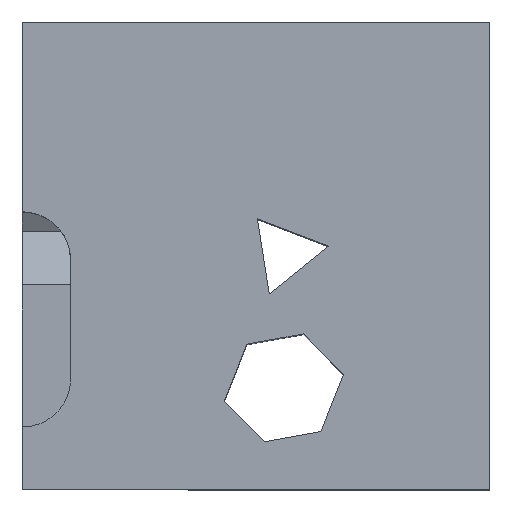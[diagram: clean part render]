
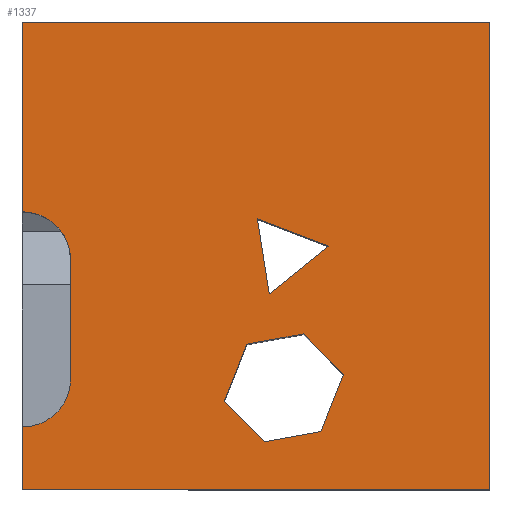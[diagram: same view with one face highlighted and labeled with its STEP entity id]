
A CAD part, top view. The second image highlights one B-rep face of the part: STEP entity #1337.
In plain terms, the highlighted planar face has unit normal (0, 0, 1).
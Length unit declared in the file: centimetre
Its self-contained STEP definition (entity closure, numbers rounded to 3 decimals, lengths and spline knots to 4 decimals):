
#18 = CARTESIAN_POINT ( 'NONE',  ( 0., 593.7577, 1000. ) ) ;
#37 = EDGE_CURVE ( 'NONE', #334, #359, #1318, .T. ) ;
#40 = VECTOR ( 'NONE', #229, 100. ) ;
#54 = DIRECTION ( 'NONE',  ( -0.984, -0.179, 0. ) ) ;
#58 = DIRECTION ( 'NONE',  ( 0., 1., 0. ) ) ;
#110 = CIRCLE ( 'NONE', #463, 103.1902 ) ;
#125 = VECTOR ( 'NONE', #714, 100. ) ;
#139 = EDGE_CURVE ( 'NONE', #796, #1105, #693, .T. ) ;
#145 = ORIENTED_EDGE ( 'NONE', *, *, #37, .T. ) ;
#161 = CARTESIAN_POINT ( 'NONE',  ( 0., 1000., 1000. ) ) ;
#164 = VERTEX_POINT ( 'NONE', #508 ) ;
#182 = EDGE_CURVE ( 'NONE', #956, #713, #895, .T. ) ;
#184 = CARTESIAN_POINT ( 'NONE',  ( 502.87, 578.7322, 1000. ) ) ;
#194 = CARTESIAN_POINT ( 'NONE',  ( 0., 236.1628, 1000. ) ) ;
#229 = DIRECTION ( 'NONE',  ( -0.707, 0.707, 0. ) ) ;
#231 = EDGE_CURVE ( 'NONE', #352, #164, #299, .T. ) ;
#234 = ORIENTED_EDGE ( 'NONE', *, *, #1062, .T. ) ;
#238 = PLANE ( 'NONE',  #1165 ) ;
#240 = CARTESIAN_POINT ( 'NONE',  ( 0., 132.9726, 1000. ) ) ;
#242 = VERTEX_POINT ( 'NONE', #908 ) ;
#248 = EDGE_CURVE ( 'NONE', #796, #433, #110, .T. ) ;
#264 = ORIENTED_EDGE ( 'NONE', *, *, #880, .T. ) ;
#267 = LINE ( 'NONE', #371, #1096 ) ;
#270 = EDGE_CURVE ( 'NONE', #1275, #1006, #1020, .T. ) ;
#299 = LINE ( 'NONE', #604, #1320 ) ;
#304 = DIRECTION ( 'NONE',  ( -1., 0., 0. ) ) ;
#312 = AXIS2_PLACEMENT_3D ( 'NONE', #567, #648, #660 ) ;
#313 = EDGE_CURVE ( 'NONE', #164, #956, #630, .T. ) ;
#317 = CARTESIAN_POINT ( 'NONE',  ( 480.1829, 310.3686, 1000. ) ) ;
#321 = EDGE_CURVE ( 'NONE', #368, #509, #1051, .T. ) ;
#324 = CARTESIAN_POINT ( 'NONE',  ( 0., 1000., 1000. ) ) ;
#329 = LINE ( 'NONE', #636, #125 ) ;
#334 = VERTEX_POINT ( 'NONE', #732 ) ;
#352 = VERTEX_POINT ( 'NONE', #627 ) ;
#354 = ORIENTED_EDGE ( 'NONE', *, *, #321, .T. ) ;
#355 = DIRECTION ( 'NONE',  ( 0.777, 0.629, 0. ) ) ;
#359 = VERTEX_POINT ( 'NONE', #317 ) ;
#368 = VERTEX_POINT ( 'NONE', #423 ) ;
#371 = CARTESIAN_POINT ( 'NONE',  ( 0., 0., 1000. ) ) ;
#383 = CARTESIAN_POINT ( 'NONE',  ( 431.7532, 187.8349, 1000. ) ) ;
#389 = ORIENTED_EDGE ( 'NONE', *, *, #993, .T. ) ;
#392 = LINE ( 'NONE', #600, #1263 ) ;
#396 = DIRECTION ( 'NONE',  ( -0.933, 0.359, 0. ) ) ;
#408 = VERTEX_POINT ( 'NONE', #799 ) ;
#411 = EDGE_LOOP ( 'NONE', ( #145, #927, #354, #1305, #234, #264 ) ) ;
#423 = CARTESIAN_POINT ( 'NONE',  ( 600.8136, 332.2936, 1000. ) ) ;
#433 = VERTEX_POINT ( 'NONE', #1100 ) ;
#445 = DIRECTION ( 'NONE',  ( 1., 0., 0. ) ) ;
#450 = CARTESIAN_POINT ( 'NONE',  ( 518.1581, 101.43, 1000. ) ) ;
#452 = EDGE_CURVE ( 'NONE', #408, #1275, #1301, .T. ) ;
#463 = AXIS2_PLACEMENT_3D ( 'NONE', #194, #1324, #617 ) ;
#469 = LINE ( 'NONE', #450, #40 ) ;
#475 = EDGE_LOOP ( 'NONE', ( #1049, #795, #389, #1291, #704, #1203, #1341, #988 ) ) ;
#484 = EDGE_CURVE ( 'NONE', #1006, #408, #392, .T. ) ;
#502 = CARTESIAN_POINT ( 'NONE',  ( 654.9294, 520.2811, 1000. ) ) ;
#508 = CARTESIAN_POINT ( 'NONE',  ( 1000., 1000., 1000. ) ) ;
#509 = VERTEX_POINT ( 'NONE', #1191 ) ;
#515 = VECTOR ( 'NONE', #54, 100. ) ;
#528 = VECTOR ( 'NONE', #304, 100. ) ;
#533 = DIRECTION ( 'NONE',  ( 0.707, -0.707, 0. ) ) ;
#567 = CARTESIAN_POINT ( 'NONE',  ( 0., 490.5676, 1000. ) ) ;
#569 = VERTEX_POINT ( 'NONE', #921 ) ;
#571 = LINE ( 'NONE', #1067, #818 ) ;
#575 = EDGE_CURVE ( 'NONE', #359, #368, #329, .T. ) ;
#600 = CARTESIAN_POINT ( 'NONE',  ( 502.87, 578.7322, 1000. ) ) ;
#604 = CARTESIAN_POINT ( 'NONE',  ( 1000., 1000., 1000. ) ) ;
#617 = DIRECTION ( 'NONE',  ( 1., 0., 0. ) ) ;
#627 = CARTESIAN_POINT ( 'NONE',  ( 1000., 0., 1000. ) ) ;
#630 = LINE ( 'NONE', #1046, #528 ) ;
#636 = CARTESIAN_POINT ( 'NONE',  ( 480.1829, 310.3686, 1000. ) ) ;
#648 = DIRECTION ( 'NONE',  ( 0., 0., 1. ) ) ;
#660 = DIRECTION ( 'NONE',  ( -1., 0., 0. ) ) ;
#664 = DIRECTION ( 'NONE',  ( -0.368, -0.93, 0. ) ) ;
#686 = CARTESIAN_POINT ( 'NONE',  ( 103.1902, 490.5676, 1000. ) ) ;
#689 = LINE ( 'NONE', #697, #515 ) ;
#693 = LINE ( 'NONE', #1332, #1036 ) ;
#697 = CARTESIAN_POINT ( 'NONE',  ( 638.7888, 123.355, 1000. ) ) ;
#703 = CARTESIAN_POINT ( 'NONE',  ( 103.1902, 490.5676, 1000. ) ) ;
#704 = ORIENTED_EDGE ( 'NONE', *, *, #313, .T. ) ;
#707 = DIRECTION ( 'NONE',  ( 0.156, -0.988, 0. ) ) ;
#713 = VERTEX_POINT ( 'NONE', #18 ) ;
#714 = DIRECTION ( 'NONE',  ( 0.984, 0.179, 0. ) ) ;
#731 = EDGE_CURVE ( 'NONE', #806, #713, #907, .T. ) ;
#732 = CARTESIAN_POINT ( 'NONE',  ( 431.7532, 187.8349, 1000. ) ) ;
#760 = FACE_BOUND ( 'NONE', #411, .T. ) ;
#795 = ORIENTED_EDGE ( 'NONE', *, *, #139, .T. ) ;
#796 = VERTEX_POINT ( 'NONE', #240 ) ;
#799 = CARTESIAN_POINT ( 'NONE',  ( 528.2795, 417.8193, 1000. ) ) ;
#806 = VERTEX_POINT ( 'NONE', #686 ) ;
#818 = VECTOR ( 'NONE', #664, 100. ) ;
#820 = VECTOR ( 'NONE', #1312, 100. ) ;
#851 = EDGE_CURVE ( 'NONE', #433, #806, #909, .T. ) ;
#880 = EDGE_CURVE ( 'NONE', #569, #334, #469, .T. ) ;
#881 = CARTESIAN_POINT ( 'NONE',  ( 0., 0., 1000. ) ) ;
#895 = LINE ( 'NONE', #161, #820 ) ;
#897 = ORIENTED_EDGE ( 'NONE', *, *, #484, .F. ) ;
#907 = CIRCLE ( 'NONE', #312, 103.1902 ) ;
#908 = CARTESIAN_POINT ( 'NONE',  ( 638.7888, 123.355, 1000. ) ) ;
#909 = LINE ( 'NONE', #703, #1159 ) ;
#921 = CARTESIAN_POINT ( 'NONE',  ( 518.1581, 101.43, 1000. ) ) ;
#922 = EDGE_CURVE ( 'NONE', #509, #242, #571, .T. ) ;
#927 = ORIENTED_EDGE ( 'NONE', *, *, #575, .T. ) ;
#948 = CARTESIAN_POINT ( 'NONE',  ( 600.8136, 332.2936, 1000. ) ) ;
#956 = VERTEX_POINT ( 'NONE', #324 ) ;
#984 = FACE_OUTER_BOUND ( 'NONE', #475, .T. ) ;
#988 = ORIENTED_EDGE ( 'NONE', *, *, #851, .F. ) ;
#991 = DIRECTION ( 'NONE',  ( 0.368, 0.93, 0. ) ) ;
#992 = CARTESIAN_POINT ( 'NONE',  ( 528.2795, 417.8193, 1000. ) ) ;
#993 = EDGE_CURVE ( 'NONE', #1105, #352, #267, .T. ) ;
#1006 = VERTEX_POINT ( 'NONE', #184 ) ;
#1020 = LINE ( 'NONE', #502, #1233 ) ;
#1036 = VECTOR ( 'NONE', #1210, 100. ) ;
#1046 = CARTESIAN_POINT ( 'NONE',  ( 0., 1000., 1000. ) ) ;
#1049 = ORIENTED_EDGE ( 'NONE', *, *, #248, .F. ) ;
#1051 = LINE ( 'NONE', #948, #1286 ) ;
#1052 = VECTOR ( 'NONE', #991, 100. ) ;
#1062 = EDGE_CURVE ( 'NONE', #242, #569, #689, .T. ) ;
#1067 = CARTESIAN_POINT ( 'NONE',  ( 687.2185, 245.8887, 1000. ) ) ;
#1084 = DIRECTION ( 'NONE',  ( 0., 0., 1. ) ) ;
#1096 = VECTOR ( 'NONE', #1097, 100. ) ;
#1097 = DIRECTION ( 'NONE',  ( 1., 0., 0. ) ) ;
#1100 = CARTESIAN_POINT ( 'NONE',  ( 103.1902, 236.1628, 1000. ) ) ;
#1105 = VERTEX_POINT ( 'NONE', #1222 ) ;
#1159 = VECTOR ( 'NONE', #58, 100. ) ;
#1165 = AXIS2_PLACEMENT_3D ( 'NONE', #881, #1084, #445 ) ;
#1178 = FACE_BOUND ( 'NONE', #1271, .T. ) ;
#1191 = CARTESIAN_POINT ( 'NONE',  ( 687.2185, 245.8887, 1000. ) ) ;
#1200 = VECTOR ( 'NONE', #355, 100. ) ;
#1203 = ORIENTED_EDGE ( 'NONE', *, *, #182, .T. ) ;
#1210 = DIRECTION ( 'NONE',  ( 0., -1., 0. ) ) ;
#1222 = CARTESIAN_POINT ( 'NONE',  ( 0., 0., 1000. ) ) ;
#1230 = ORIENTED_EDGE ( 'NONE', *, *, #452, .F. ) ;
#1233 = VECTOR ( 'NONE', #396, 100. ) ;
#1234 = DIRECTION ( 'NONE',  ( 0., 1., 0. ) ) ;
#1263 = VECTOR ( 'NONE', #707, 100. ) ;
#1271 = EDGE_LOOP ( 'NONE', ( #1297, #1230, #897 ) ) ;
#1275 = VERTEX_POINT ( 'NONE', #1345 ) ;
#1286 = VECTOR ( 'NONE', #533, 100. ) ;
#1291 = ORIENTED_EDGE ( 'NONE', *, *, #231, .T. ) ;
#1297 = ORIENTED_EDGE ( 'NONE', *, *, #270, .F. ) ;
#1301 = LINE ( 'NONE', #992, #1200 ) ;
#1305 = ORIENTED_EDGE ( 'NONE', *, *, #922, .T. ) ;
#1312 = DIRECTION ( 'NONE',  ( 0., -1., 0. ) ) ;
#1318 = LINE ( 'NONE', #383, #1052 ) ;
#1320 = VECTOR ( 'NONE', #1234, 100. ) ;
#1324 = DIRECTION ( 'NONE',  ( 0., 0., 1. ) ) ;
#1332 = CARTESIAN_POINT ( 'NONE',  ( 0., 1000., 1000. ) ) ;
#1337 = ADVANCED_FACE ( 'NONE', ( #984, #760, #1178 ), #238, .T. ) ;
#1341 = ORIENTED_EDGE ( 'NONE', *, *, #731, .F. ) ;
#1345 = CARTESIAN_POINT ( 'NONE',  ( 654.9294, 520.2811, 1000. ) ) ;
